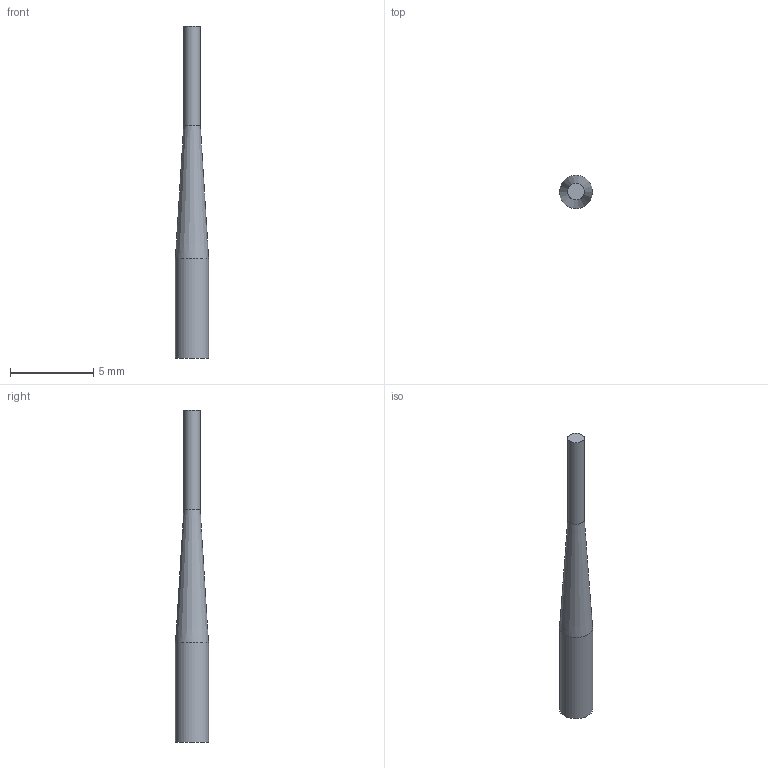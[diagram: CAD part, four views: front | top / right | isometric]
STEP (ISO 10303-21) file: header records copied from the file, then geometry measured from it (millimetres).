
FILE_DESCRIPTION(('Open CASCADE Model'),'2;1');
FILE_NAME('Open CASCADE Shape Model','2026-10-28T05:14:49',('Author'),( 'Open CASCADE'),'Open CASCADE STEP processor 7.8','Open CASCADE 7.8' ,'Unknown');
FILE_SCHEMA(('AUTOMOTIVE_DESIGN { 1 0 10303 214 1 1 1 1 }'));
Length unit declared in the file: millimetre
Products named in the file (1): Open CASCADE STEP translator 7.8 2
Bounding box: 2 x 2 x 20 mm (x, y, z)
Volume: 38.2 mm3; surface area: 98.2 mm2
Topology: 1 solids, 1 shells, 5 faces, 7 edges, 4 vertices
Faces by surface type: plane 2, cylinder 2, cone 1
Full cylindrical faces by diameter (mm): 1 x1, 2 x1
Entity records: 210 total; most frequent: DIRECTION 37, CARTESIAN_POINT 31, LINE 15, VECTOR 15, ORIENTED_EDGE 14, PCURVE 14, DEFINITIONAL_REPRESENTATION 14, AXIS2_PLACEMENT_3D 10
